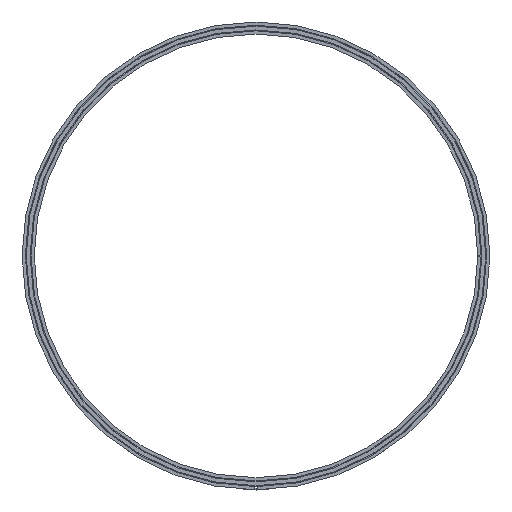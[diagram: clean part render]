
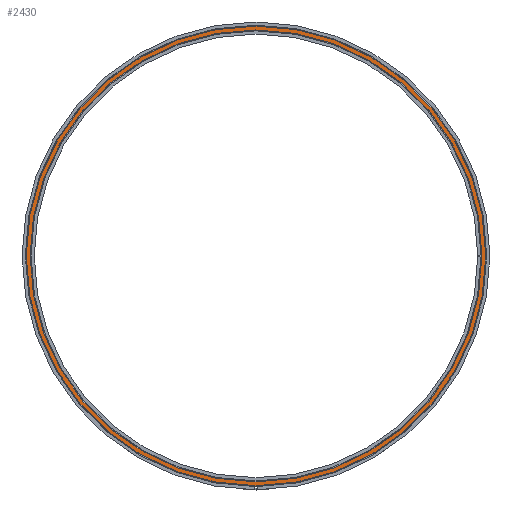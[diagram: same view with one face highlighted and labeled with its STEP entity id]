
A CAD part, left-side view. The second image highlights one B-rep face of the part: STEP entity #2430.
In plain terms, the highlighted planar face has unit normal (-1, 0, 0).
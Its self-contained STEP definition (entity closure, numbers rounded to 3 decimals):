
#395=CARTESIAN_POINT('',(-2.8,0.,-420.164));
#396=VERTEX_POINT('',#395);
#404=CARTESIAN_POINT('',(-2.8,0.,420.164));
#405=VERTEX_POINT('',#404);
#406=CARTESIAN_POINT('',(-2.8,0.0,0.0));
#407=DIRECTION('',(1.0,0.0,0.0));
#408=DIRECTION('',(0.0,1.0,0.0));
#409=AXIS2_PLACEMENT_3D('',#406,#407,#408);
#410=CIRCLE('',#409,420.164);
#411=EDGE_CURVE('',#405,#396,#410,.T.);
#483=CARTESIAN_POINT('',(-2.8,0.,427.336));
#484=VERTEX_POINT('',#483);
#492=CARTESIAN_POINT('',(-2.8,0.,-427.336));
#493=VERTEX_POINT('',#492);
#494=CARTESIAN_POINT('',(-2.8,0.0,0.0));
#495=DIRECTION('',(1.0,0.0,0.0));
#496=DIRECTION('',(0.0,1.0,0.0));
#497=AXIS2_PLACEMENT_3D('',#494,#495,#496);
#498=CIRCLE('',#497,427.336);
#499=EDGE_CURVE('',#484,#493,#498,.T.);
#748=CARTESIAN_POINT('',(-2.8,427.336,0.0));
#749=VERTEX_POINT('',#748);
#750=CARTESIAN_POINT('',(-2.8,0.0,0.0));
#751=DIRECTION('',(1.0,0.0,0.0));
#752=DIRECTION('',(0.0,1.0,0.0));
#753=AXIS2_PLACEMENT_3D('',#750,#751,#752);
#754=CIRCLE('',#753,427.336);
#755=EDGE_CURVE('',#493,#749,#754,.T.);
#757=CARTESIAN_POINT('',(-2.8,0.0,0.0));
#758=DIRECTION('',(1.0,0.0,0.0));
#759=DIRECTION('',(0.0,1.0,0.0));
#760=AXIS2_PLACEMENT_3D('',#757,#758,#759);
#761=CIRCLE('',#760,427.336);
#762=EDGE_CURVE('',#749,#484,#761,.T.);
#1332=CARTESIAN_POINT('',(-2.8,420.164,0.0));
#1333=VERTEX_POINT('',#1332);
#1334=CARTESIAN_POINT('',(-2.8,0.0,0.0));
#1335=DIRECTION('',(1.0,0.0,0.0));
#1336=DIRECTION('',(0.0,1.0,0.0));
#1337=AXIS2_PLACEMENT_3D('',#1334,#1335,#1336);
#1338=CIRCLE('',#1337,420.164);
#1339=EDGE_CURVE('',#1333,#405,#1338,.T.);
#1341=CARTESIAN_POINT('',(-2.8,0.0,0.0));
#1342=DIRECTION('',(1.0,0.0,0.0));
#1343=DIRECTION('',(0.0,1.0,0.0));
#1344=AXIS2_PLACEMENT_3D('',#1341,#1342,#1343);
#1345=CIRCLE('',#1344,420.164);
#1346=EDGE_CURVE('',#396,#1333,#1345,.T.);
#2415=CARTESIAN_POINT('',(-2.8,423.75,0.0));
#2416=DIRECTION('',(-1.0,0.0,0.0));
#2417=DIRECTION('',(0.0,0.0,1.0));
#2418=AXIS2_PLACEMENT_3D('',#2415,#2416,#2417);
#2419=PLANE('',#2418);
#2420=ORIENTED_EDGE('',*,*,#762,.F.);
#2421=ORIENTED_EDGE('',*,*,#755,.F.);
#2422=ORIENTED_EDGE('',*,*,#499,.F.);
#2423=EDGE_LOOP('',(#2420,#2421,#2422));
#2424=FACE_OUTER_BOUND('',#2423,.T.);
#2425=ORIENTED_EDGE('',*,*,#1339,.T.);
#2426=ORIENTED_EDGE('',*,*,#411,.T.);
#2427=ORIENTED_EDGE('',*,*,#1346,.T.);
#2428=EDGE_LOOP('',(#2425,#2426,#2427));
#2429=FACE_BOUND('',#2428,.T.);
#2430=ADVANCED_FACE('',(#2424,#2429),#2419,.T.);
